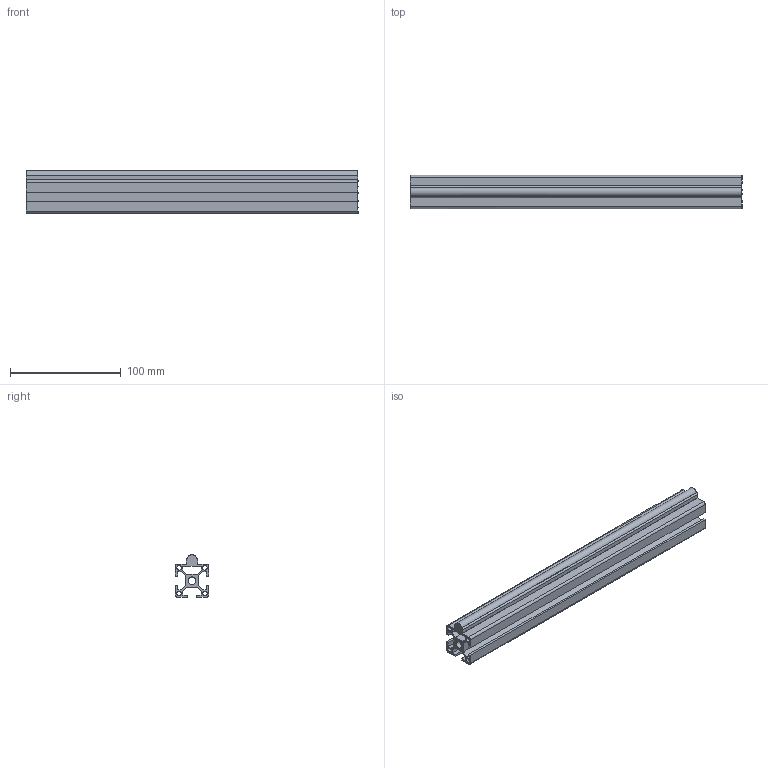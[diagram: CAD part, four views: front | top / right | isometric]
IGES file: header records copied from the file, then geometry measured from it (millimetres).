
Global section: file name: No Iges File Name specified; native system: AutoDesk Inventor R11.0; preprocessor: AutoDesk Inventor Iges Exporter R11.0; author: No Author specified; organization: No Organization specified; date: 20170118.094148; units: millimetre
Bounding box: 300 x 30 x 38.5 mm (x, y, z)
Surface area: 102759.7 mm2 (no closed solid volume)
Topology: 0 solids, 0 shells, 66 faces, 432 edges, 432 vertices
Faces by surface type: bspline 66
